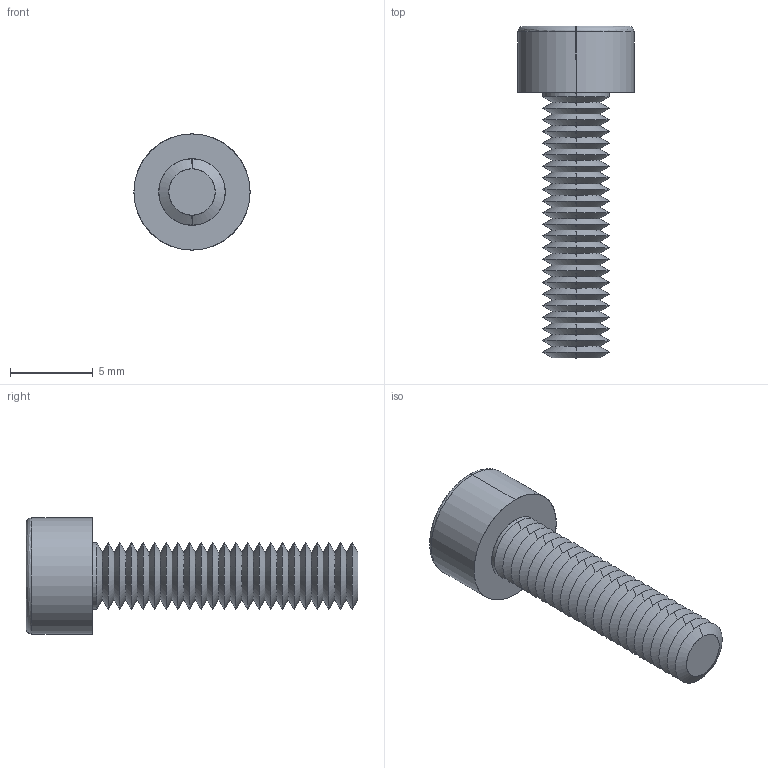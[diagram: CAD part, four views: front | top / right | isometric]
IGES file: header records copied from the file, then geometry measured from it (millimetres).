
Start section: SolidWorks IGES file using analytic representation for surfaces
Global section: file name: C:\Users\ianosborn\Desktop\N0007.91N_v2\N0007.91N_v2_20250519_IGES\91N.040.0160.igs; native system: SolidWorks 2019; preprocessor: SolidWorks 2019; author: IanOsborn; date: 250520.095112; units: millimetre
Bounding box: 7 x 20 x 7 mm (x, y, z)
Surface area: 526 mm2 (no closed solid volume)
Topology: 0 solids, 0 shells, 120 faces, 665 edges, 663 vertices
Faces by surface type: revolution 103, bspline 17
